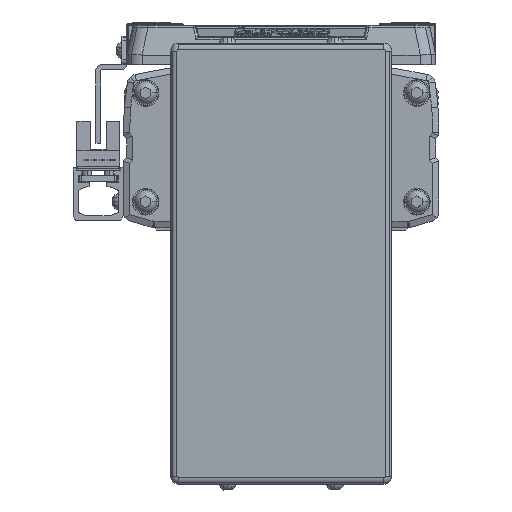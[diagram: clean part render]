
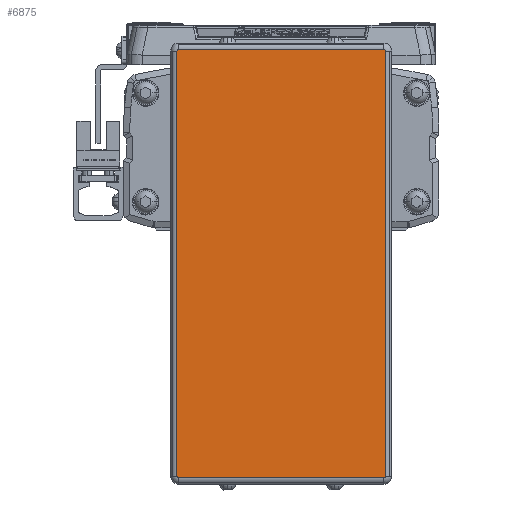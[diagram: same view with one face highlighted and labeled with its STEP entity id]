
A CAD part, left-side view. The second image highlights one B-rep face of the part: STEP entity #6875.
In plain terms, the highlighted planar face has unit normal (-1, 0, 0).
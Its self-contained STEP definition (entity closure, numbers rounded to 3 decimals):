
#6875=ADVANCED_FACE('',(#14163),#14164,.F.);
#14163=FACE_OUTER_BOUND('',#22308,.T.);
#14164=PLANE('',#22309);
#22308=EDGE_LOOP('',(#41789,#41790,#41791,#41792,#41793,#41794,#41795,#41796));
#22309=AXIS2_PLACEMENT_3D('',#41797,#41798,#41799);
#41789=ORIENTED_EDGE('',*,*,#49687,.T.);
#41790=ORIENTED_EDGE('',*,*,#53756,.T.);
#41791=ORIENTED_EDGE('',*,*,#53567,.T.);
#41792=ORIENTED_EDGE('',*,*,#50521,.T.);
#41793=ORIENTED_EDGE('',*,*,#46462,.T.);
#41794=ORIENTED_EDGE('',*,*,#51765,.T.);
#41795=ORIENTED_EDGE('',*,*,#47176,.T.);
#41796=ORIENTED_EDGE('',*,*,#53757,.T.);
#41797=CARTESIAN_POINT('',(-616.0,0.,-41.6));
#41798=DIRECTION('',(1.0,0.,0.));
#41799=DIRECTION('',(0.,0.,1.0));
#46462=EDGE_CURVE('',#55606,#55604,#55607,.T.);
#47176=EDGE_CURVE('',#56867,#56865,#56868,.T.);
#49687=EDGE_CURVE('',#60994,#60992,#60995,.T.);
#50521=EDGE_CURVE('',#62255,#55606,#62256,.T.);
#51765=EDGE_CURVE('',#55604,#56867,#63984,.T.);
#53567=EDGE_CURVE('',#66204,#62255,#66205,.T.);
#53756=EDGE_CURVE('',#60992,#66204,#66407,.T.);
#53757=EDGE_CURVE('',#56865,#60994,#66408,.T.);
#55604=VERTEX_POINT('',#68724);
#55606=VERTEX_POINT('',#68726);
#55607=LINE('',#68727,#68728);
#56865=VERTEX_POINT('',#70326);
#56867=VERTEX_POINT('',#70328);
#56868=LINE('',#70329,#70330);
#60992=VERTEX_POINT('',#76004);
#60994=VERTEX_POINT('',#76006);
#60995=LINE('',#76007,#76008);
#62255=VERTEX_POINT('',#77711);
#62256=CIRCLE('',#77712,0.5);
#63984=CIRCLE('',#80080,0.5);
#66204=VERTEX_POINT('',#83206);
#66205=LINE('',#83207,#83208);
#66407=CIRCLE('',#83471,0.5);
#66408=CIRCLE('',#83472,0.5);
#68724=CARTESIAN_POINT('',(-616.0,33.05,-109.));
#68726=CARTESIAN_POINT('',(-616.,33.05,25.8));
#68727=CARTESIAN_POINT('',(-616.0,33.05,-41.6));
#68728=VECTOR('',#85220,10.0);
#70326=CARTESIAN_POINT('',(-616.0,-32.55,-109.5));
#70328=CARTESIAN_POINT('',(-616.0,32.55,-109.5));
#70329=CARTESIAN_POINT('',(-616.0,0.,-109.5));
#70330=VECTOR('',#86311,10.0);
#76004=CARTESIAN_POINT('',(-616.,-33.05,25.8));
#76006=CARTESIAN_POINT('',(-616.0,-33.05,-109.));
#76007=CARTESIAN_POINT('',(-616.,-33.05,-41.6));
#76008=VECTOR('',#89712,10.0);
#77711=CARTESIAN_POINT('',(-616.,32.55,26.3));
#77712=AXIS2_PLACEMENT_3D('',#90899,#90900,#90901);
#80080=AXIS2_PLACEMENT_3D('',#92447,#92448,#92449);
#83206=CARTESIAN_POINT('',(-616.,-32.55,26.3));
#83207=CARTESIAN_POINT('',(-616.,0.,26.3));
#83208=VECTOR('',#94323,10.0);
#83471=AXIS2_PLACEMENT_3D('',#94475,#94476,#94477);
#83472=AXIS2_PLACEMENT_3D('',#94478,#94479,#94480);
#85220=DIRECTION('',(0.,0.,-1.0));
#86311=DIRECTION('',(0.,-1.0,0.));
#89712=DIRECTION('',(0.,0.,1.0));
#90899=CARTESIAN_POINT('',(-616.,32.55,25.8));
#90900=DIRECTION('',(-1.0,0.,0.));
#90901=DIRECTION('',(0.,0.707,0.707));
#92447=CARTESIAN_POINT('',(-616.0,32.55,-109.));
#92448=DIRECTION('',(-1.0,0.,0.));
#92449=DIRECTION('',(0.,0.707,-0.707));
#94323=DIRECTION('',(0.,1.0,0.));
#94475=CARTESIAN_POINT('',(-616.,-32.55,25.8));
#94476=DIRECTION('',(-1.0,0.,0.));
#94477=DIRECTION('',(0.,-0.707,0.707));
#94478=CARTESIAN_POINT('',(-616.0,-32.55,-109.));
#94479=DIRECTION('',(-1.0,0.,0.));
#94480=DIRECTION('',(0.,-0.707,-0.707));
